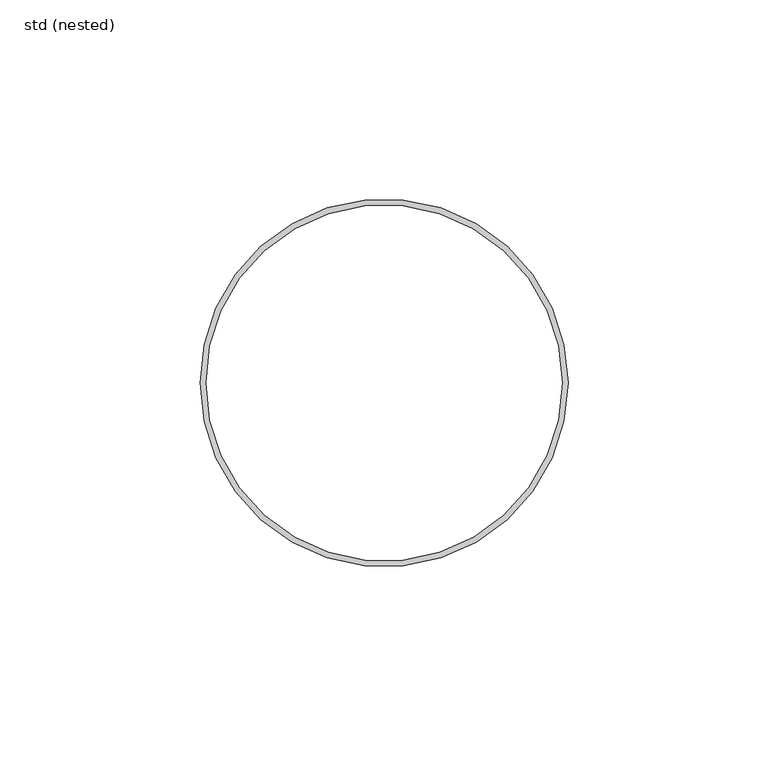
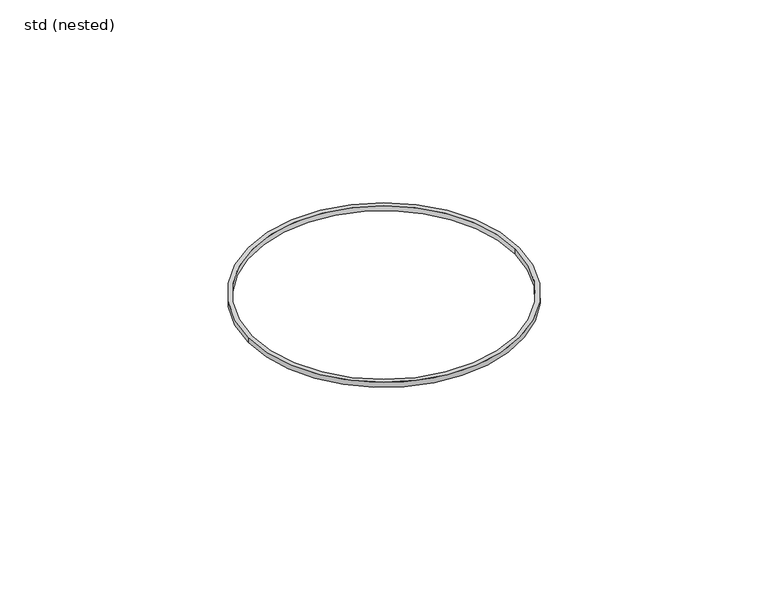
"""IFC4 building model written with IfcOpenShell, lengths in millimetres: pipe fitting geometry, ZZZ_do not use_PIF_GEN_WPB_GM-X (compound) pipe seal_ACO : std (nested)."""

from ifc_helpers import new_model, si_unit, point, origin, origin_with_axes, origin_2d, place, context, project, spatial, circle_curve, trimmed, segment, composite_curve, outline, extrude, source, transform, mapped, element, save


def std_nested_f8058470(model_context):
    return source(origin(), model_context, "Body", "SweptSolid", [
        extrude(outline(composite_curve([segment(trimmed(circle_curve(origin_2d(), 46.0), [point((46.0, 0.0))], [point((-46.0, 0.0))], False, "CARTESIAN"), True, "CONTINUOUS"), segment(trimmed(circle_curve(origin_2d(), 46.0), [point((-46.0, 0.0))], [point((46.0, 0.0))], False, "CARTESIAN"), True, "CONTINUOUS")], self_intersect=False), holes=[composite_curve([segment(trimmed(circle_curve(origin_2d(), 44.5), [point((44.5, 0.0))], [point((-44.5, 0.0))], True, "CARTESIAN"), True, "CONTINUOUS"), segment(trimmed(circle_curve(origin_2d(), 44.5), [point((-44.5, 0.0))], [point((44.5, 0.0))], True, "CARTESIAN"), True, "CONTINUOUS")], self_intersect=False)]), origin_with_axes(), (0.0, 0.0, 1.0), 1.8),
    ])


if __name__ == "__main__":
    model = new_model("IFC4")
    model_context = context("Model", 3, world=origin())
    ifc_project = project(units=[si_unit("LENGTHUNIT", "METRE", prefix="MILLI")], contexts=[model_context])
    site = spatial("IfcSite", under=ifc_project)
    building = spatial("IfcBuilding", under=site)
    placement = place(None, origin())
    std_nested_shape = std_nested_f8058470(model_context)
    element("IfcPipeFitting", 1, ObjectType="ZZZ_do not use_PIF_GEN_WPB_GM-X (compound) pipe seal_ACO : std (nested)", at=placement, inside=building, context=model_context, shape_type="MappedRepresentation", body=[
        mapped(std_nested_shape, transform((0.0, 0.0, 0.0), x_axis=(1.0, 0.0, 0.0), y_axis=(0.0, 1.0, 0.0), z_axis=(0.0, 0.0, 1.0))),
    ])
    save(model, "model.ifc")
